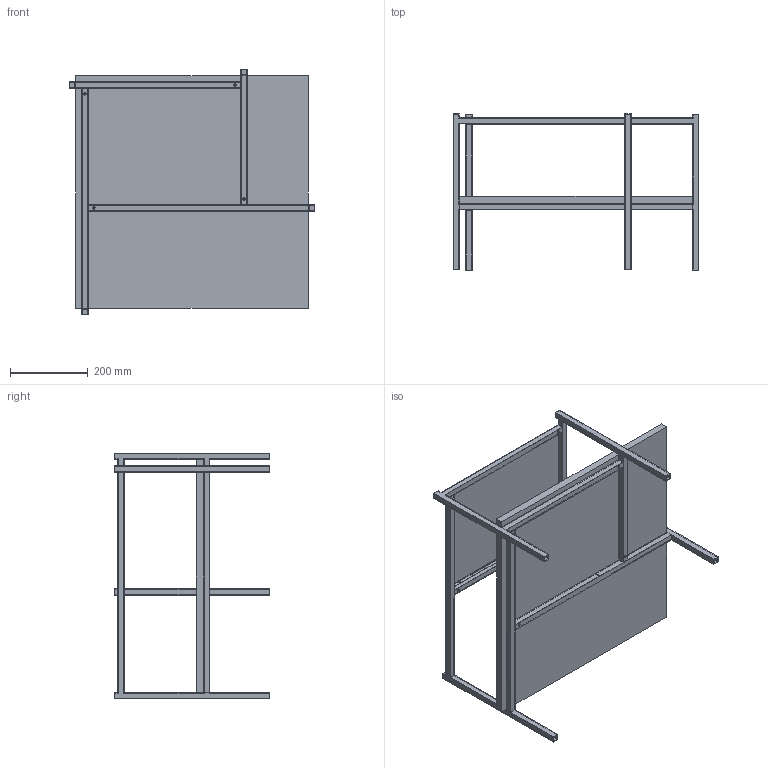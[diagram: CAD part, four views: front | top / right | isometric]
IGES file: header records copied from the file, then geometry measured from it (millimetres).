
Start section: SolidWorks IGES file using analytic representation for surfaces
Global section: file name: C:\Users\hcaixa\Documents\Gabinete Tecnico\72_produtos cliente\Timsteel\Estantes\Estantes  Q16\Q16 versão catalogo\Assemblys\IGS\Novas Peças\Coffee Table 600x600.IGS; native system: SolidWorks 2014; preprocessor: SolidWorks 2014; author: hcaixa; date: 190704.122825; units: millimetre
Bounding box: 634 x 402 x 634 mm (x, y, z)
Surface area: 1771080.4 mm2 (no closed solid volume)
Topology: 0 solids, 0 shells, 206 faces, 2320 edges, 2320 vertices
Faces by surface type: bspline 146, revolution 60
